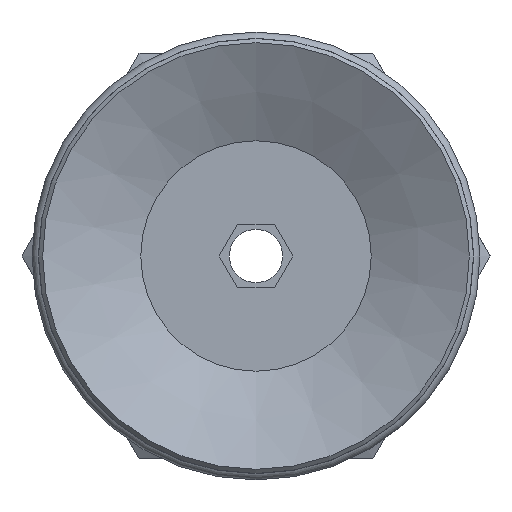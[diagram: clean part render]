
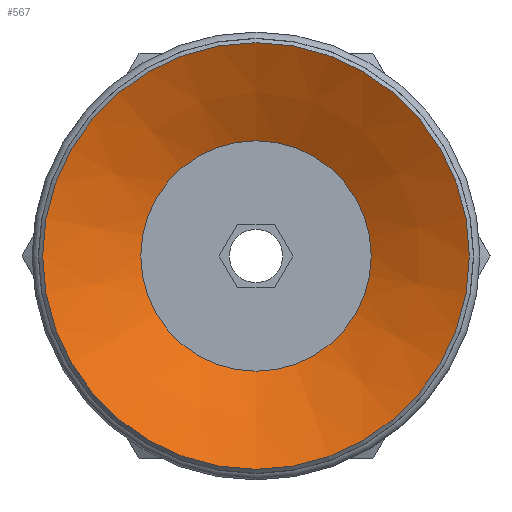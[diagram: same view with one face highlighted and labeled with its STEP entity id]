
A CAD part, front view. The second image highlights one B-rep face of the part: STEP entity #567.
In plain terms, the highlighted conical face has half-angle 63 degrees and reference radius 5.4 mm.
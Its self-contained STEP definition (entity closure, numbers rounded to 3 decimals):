
#567=ADVANCED_FACE('',(#841,#842),#843,.F.);
#841=FACE_BOUND('',#1118,.T.);
#842=FACE_OUTER_BOUND('',#1119,.T.);
#843=CONICAL_SURFACE('',#1120,5.4,1.1);
#1118=EDGE_LOOP('',(#1888));
#1119=EDGE_LOOP('',(#1889));
#1120=AXIS2_PLACEMENT_3D('',#1890,#1891,#1892);
#1888=ORIENTED_EDGE('',*,*,#2112,.F.);
#1889=ORIENTED_EDGE('',*,*,#2111,.T.);
#1890=CARTESIAN_POINT('',(0.0,5.518,0.0));
#1891=DIRECTION('',(-0.0,-1.0,0.));
#1892=DIRECTION('',(0.0,0.,-1.0));
#2111=EDGE_CURVE('',#2474,#2474,#2475,.T.);
#2112=EDGE_CURVE('',#2476,#2476,#2477,.T.);
#2474=VERTEX_POINT('',#3266);
#2475=CIRCLE('',#3267,10.0);
#2476=VERTEX_POINT('',#3268);
#2477=CIRCLE('',#3269,5.4);
#3266=CARTESIAN_POINT('',(0.0,3.175,-10.0));
#3267=AXIS2_PLACEMENT_3D('',#3587,#3588,#3589);
#3268=CARTESIAN_POINT('',(0.0,5.518,-5.4));
#3269=AXIS2_PLACEMENT_3D('',#3590,#3591,#3592);
#3587=CARTESIAN_POINT('',(0.0,3.175,0.0));
#3588=DIRECTION('',(0.0,-1.0,0.));
#3589=DIRECTION('',(0.0,0.,-1.0));
#3590=CARTESIAN_POINT('',(0.0,5.518,0.0));
#3591=DIRECTION('',(0.0,-1.0,0.));
#3592=DIRECTION('',(0.0,0.,-1.0));
